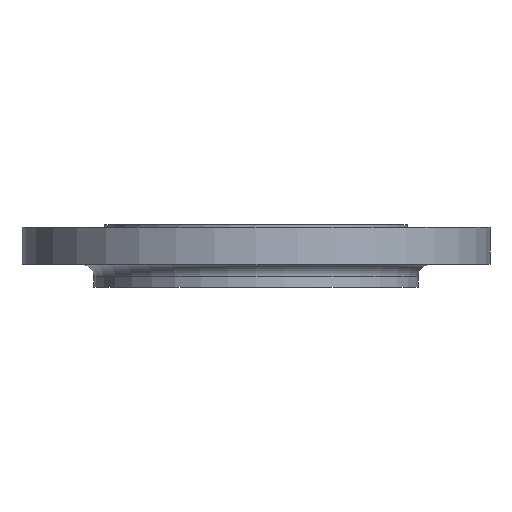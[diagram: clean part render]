
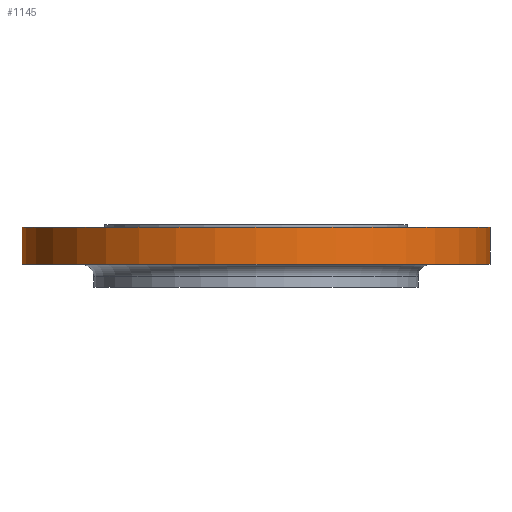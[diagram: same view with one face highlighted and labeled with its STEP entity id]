
A CAD part, front view. The second image highlights one B-rep face of the part: STEP entity #1145.
In plain terms, the highlighted cylindrical face has radius 225 mm (diameter 450 mm), a partial arc.
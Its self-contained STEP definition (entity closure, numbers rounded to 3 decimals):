
#32 = AXIS2_PLACEMENT_3D ( 'NONE', #429, #428, #427 ) ;
#38 = DIRECTION ( 'NONE',  ( 0., 0., 1. ) ) ;
#57 = CIRCLE ( 'NONE', #32, 225. ) ;
#59 = CARTESIAN_POINT ( 'NONE',  ( -225., 0., -115. ) ) ;
#61 = LINE ( 'NONE', #59, #466 ) ;
#130 = DIRECTION ( 'NONE',  ( 0., 0., -1. ) ) ;
#135 = DIRECTION ( 'NONE',  ( -1., 0., 0. ) ) ;
#140 = CARTESIAN_POINT ( 'NONE',  ( 0., 0., -2.5 ) ) ;
#151 = CARTESIAN_POINT ( 'NONE',  ( 225., 0., -38. ) ) ;
#220 = CARTESIAN_POINT ( 'NONE',  ( -225., 0., -2.5 ) ) ;
#234 = DIRECTION ( 'NONE',  ( 1., 0., 0. ) ) ;
#235 = DIRECTION ( 'NONE',  ( 0., 0., 1. ) ) ;
#242 = CARTESIAN_POINT ( 'NONE',  ( 225., 0., -2.5 ) ) ;
#244 = VECTOR ( 'NONE', #532, 1000. ) ;
#248 = FACE_OUTER_BOUND ( 'NONE', #1193, .T. ) ;
#251 = CYLINDRICAL_SURFACE ( 'NONE', #1207, 225. ) ;
#252 = CARTESIAN_POINT ( 'NONE',  ( -225., 0., -38. ) ) ;
#253 = CARTESIAN_POINT ( 'NONE',  ( 0., 0., -115. ) ) ;
#427 = DIRECTION ( 'NONE',  ( 1., 0., 0. ) ) ;
#428 = DIRECTION ( 'NONE',  ( 0., 0., 1. ) ) ;
#429 = CARTESIAN_POINT ( 'NONE',  ( 0., 0., -38. ) ) ;
#452 = AXIS2_PLACEMENT_3D ( 'NONE', #140, #130, #135 ) ;
#466 = VECTOR ( 'NONE', #38, 1000. ) ;
#532 = DIRECTION ( 'NONE',  ( 0., 0., 1. ) ) ;
#533 = CARTESIAN_POINT ( 'NONE',  ( 225., 0., -115. ) ) ;
#534 = LINE ( 'NONE', #533, #244 ) ;
#910 = EDGE_CURVE ( 'NONE', #1219, #1347, #534, .T. ) ;
#1017 = EDGE_CURVE ( 'NONE', #1333, #1219, #57, .T. ) ;
#1036 = ORIENTED_EDGE ( 'NONE', *, *, #1284, .F. ) ;
#1037 = ORIENTED_EDGE ( 'NONE', *, *, #1017, .T. ) ;
#1038 = ORIENTED_EDGE ( 'NONE', *, *, #910, .T. ) ;
#1039 = ORIENTED_EDGE ( 'NONE', *, *, #1259, .T. ) ;
#1105 = CIRCLE ( 'NONE', #452, 225. ) ;
#1145 = ADVANCED_FACE ( 'NONE', ( #248 ), #251, .T. ) ;
#1193 = EDGE_LOOP ( 'NONE', ( #1036, #1037, #1038, #1039 ) ) ;
#1207 = AXIS2_PLACEMENT_3D ( 'NONE', #253, #235, #234 ) ;
#1219 = VERTEX_POINT ( 'NONE', #151 ) ;
#1259 = EDGE_CURVE ( 'NONE', #1347, #1375, #1105, .T. ) ;
#1284 = EDGE_CURVE ( 'NONE', #1333, #1375, #61, .T. ) ;
#1333 = VERTEX_POINT ( 'NONE', #252 ) ;
#1347 = VERTEX_POINT ( 'NONE', #242 ) ;
#1375 = VERTEX_POINT ( 'NONE', #220 ) ;
